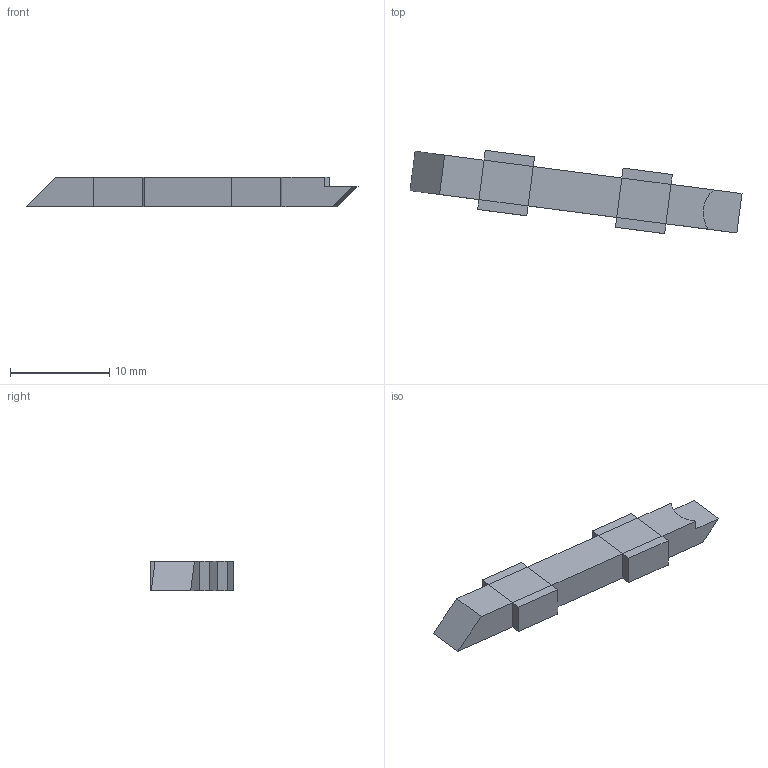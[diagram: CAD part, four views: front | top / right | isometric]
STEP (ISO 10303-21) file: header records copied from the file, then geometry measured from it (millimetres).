
FILE_DESCRIPTION(('Open CASCADE Model'),'2;1');
FILE_NAME('Open CASCADE Shape Model','2026-09-16T15:34:22',('Author'),( 'Open CASCADE'),'Open CASCADE STEP processor 7.7','Open CASCADE 7.7' ,'Unknown');
FILE_SCHEMA(('AUTOMOTIVE_DESIGN { 1 0 10303 214 1 1 1 1 }'));
Length unit declared in the file: millimetre
Products named in the file (1): COMPOUND
Bounding box: 33.45 x 8.39 x 3 mm (x, y, z)
Volume: 419.1 mm3; surface area: 522.7 mm2
Topology: 1 solids, 1 shells, 40 faces, 82 edges, 44 vertices
Faces by surface type: plane 39, cylinder 1
Entity records: 2058 total; most frequent: CARTESIAN_POINT 341, DIRECTION 320, LINE 232, VECTOR 232, ORIENTED_EDGE 164, PCURVE 164, DEFINITIONAL_REPRESENTATION 164, EDGE_CURVE 82
